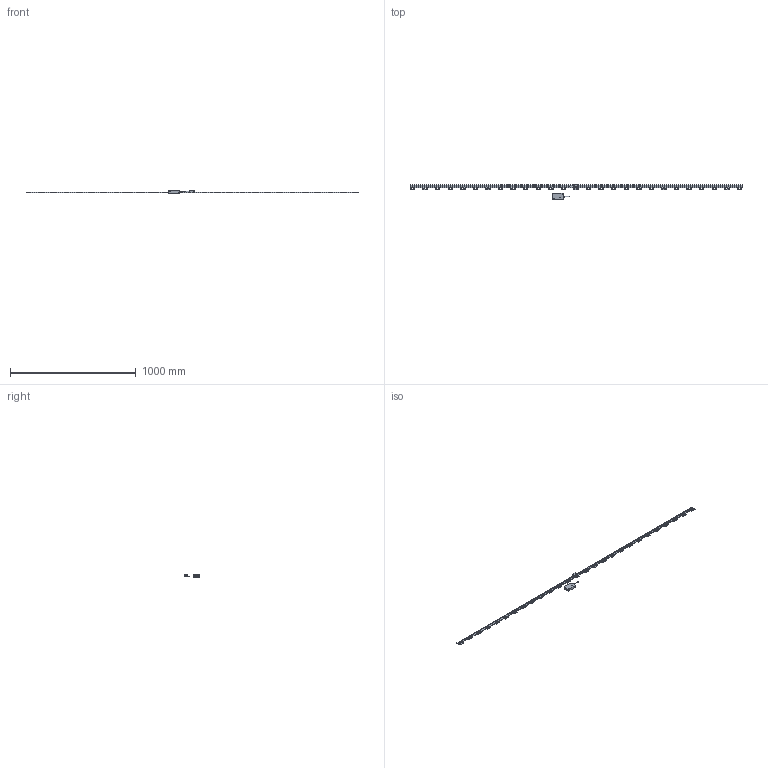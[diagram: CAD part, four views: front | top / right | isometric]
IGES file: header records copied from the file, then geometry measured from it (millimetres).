
Start section: Elysium IGES Interface
Global section: file name: 62H\\Utsu119s\kiyo_cad\data\3D\ST36\HP掲載用_201804\ST36-2600.igs; native system: Creo Elements/Direct Modeling 18.1B  29-Sep-2012; preprocessor: Creo Element/Direct IGES_3D V2.2; author: Unknown; organization: Unknown; date: 20180323.150310; units: millimetre
Bounding box: 2640 x 123 x 19.9 mm (x, y, z)
Volume: 371873.9 mm3; surface area: 191455.6 mm2
Topology: 3 solids, 5 shells, 1277 faces, 3659 edges, 2415 vertices
Faces by surface type: bspline 1277
